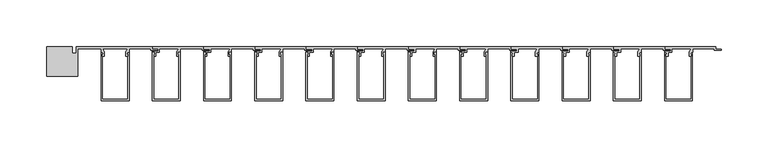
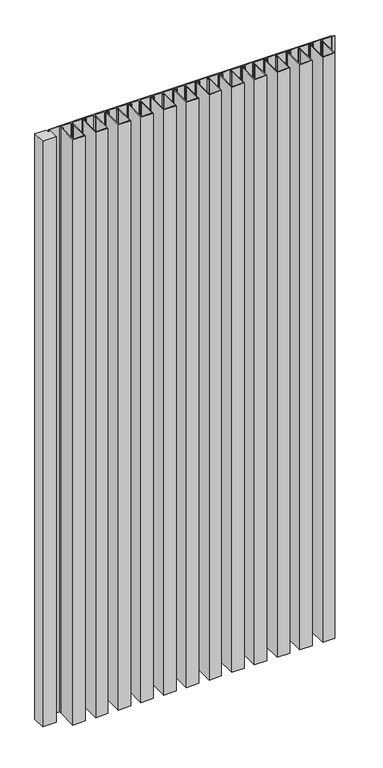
"""IFC4 building model written with IfcOpenShell, lengths in millimetres: proxy geometry, A_GEN_LINE_Small Base_Extended Cap_Corner Angle : A_GEN_LINE_Small Base_Extended Cap_Corner Angle."""

from ifc_helpers import new_model, si_unit, origin, origin_with_axes, place, context, project, spatial, polyline, outline, extrude, source, transform, mapped, element, save


def generic_models_9d76b78a(model_context):
    return source(origin(), model_context, "Body", "SweptSolid", [
        extrude(outline(polyline([(632.0964399, 0.0), (686.6693343, 0.0), (686.6693343, -2.85), (692.6693343, -2.85), (692.6693343, -4.2), (685.1509793, -4.2), (685.1509793, -2.4), (661.6814118, -2.4), (661.6814118, -6.1021884), (660.5664384, -6.1021884), (658.9778726, -8.4994005), (660.2398065, -8.4994005), (660.2398065, -10.4818695), (658.0372804, -10.4818695), (658.0372804, -5.6343123), (660.1364015, -2.4), (639.3159926, -2.4), (639.3159926, -6.1), (635.3255432, -6.1), (635.3255432, -10.4818695), (633.1230171, -10.4818695), (633.1230171, -8.4994005), (634.384951, -8.4994005), (632.7963852, -6.1021884), (631.7101997, -6.1021884), (631.7101997, -4.9), (638.1159926, -4.9), (638.1159926, -2.7), (632.0964399, -2.7), (632.0964399, 0.0)])), origin_with_axes(), (0.0, 0.0, 1.0), 1500.0),
        extrude(outline(polyline([(577.0964399, 0.0), (631.6693343, 0.0), (631.6693343, -2.85), (637.6693343, -2.85), (637.6693343, -4.2), (630.1509793, -4.2), (630.1509793, -2.4), (606.6814118, -2.4), (606.6814118, -6.1021884), (605.5664384, -6.1021884), (603.9778726, -8.4994005), (605.2398065, -8.4994005), (605.2398065, -10.4818695), (603.0372804, -10.4818695), (603.0372804, -5.6343123), (605.1364015, -2.4), (584.3159926, -2.4), (584.3159926, -6.1), (580.3255432, -6.1), (580.3255432, -10.4818695), (578.1230171, -10.4818695), (578.1230171, -8.4994005), (579.384951, -8.4994005), (577.7963852, -6.1021884), (576.7101997, -6.1021884), (576.7101997, -4.9), (583.1159926, -4.9), (583.1159926, -2.7), (577.0964399, -2.7), (577.0964399, 0.0)])), origin_with_axes(), (0.0, 0.0, 1.0), 1500.0),
        extrude(outline(polyline([(522.0964399, 0.0), (576.6693343, 0.0), (576.6693343, -2.85), (582.6693343, -2.85), (582.6693343, -4.2), (575.1509793, -4.2), (575.1509793, -2.4), (551.6814118, -2.4), (551.6814118, -6.1021884), (550.5664384, -6.1021884), (548.9778726, -8.4994005), (550.2398065, -8.4994005), (550.2398065, -10.4818695), (548.0372804, -10.4818695), (548.0372804, -5.6343123), (550.1364015, -2.4), (529.3159926, -2.4), (529.3159926, -6.1), (525.3255432, -6.1), (525.3255432, -10.4818695), (523.1230171, -10.4818695), (523.1230171, -8.4994005), (524.384951, -8.4994005), (522.7963852, -6.1021884), (521.7101997, -6.1021884), (521.7101997, -4.9), (528.1159926, -4.9), (528.1159926, -2.7), (522.0964399, -2.7), (522.0964399, 0.0)])), origin_with_axes(), (0.0, 0.0, 1.0), 1500.0),
        extrude(outline(polyline([(467.0964399, 0.0), (521.6693343, 0.0), (521.6693343, -2.85), (527.6693343, -2.85), (527.6693343, -4.2), (520.1509793, -4.2), (520.1509793, -2.4), (496.6814118, -2.4), (496.6814118, -6.1021884), (495.5664384, -6.1021884), (493.9778726, -8.4994005), (495.2398065, -8.4994005), (495.2398065, -10.4818695), (493.0372804, -10.4818695), (493.0372804, -5.6343123), (495.1364015, -2.4), (474.3159926, -2.4), (474.3159926, -6.1), (470.3255432, -6.1), (470.3255432, -10.4818695), (468.1230171, -10.4818695), (468.1230171, -8.4994005), (469.384951, -8.4994005), (467.7963852, -6.1021884), (466.7101997, -6.1021884), (466.7101997, -4.9), (473.1159926, -4.9), (473.1159926, -2.7), (467.0964399, -2.7), (467.0964399, 0.0)])), origin_with_axes(), (0.0, 0.0, 1.0), 1500.0),
        extrude(outline(polyline([(631.5939572, -58.2007192), (631.5939572, -6.1), (633.7429642, -6.1), (633.7429642, -8.3419727), (632.9939572, -8.5826662), (632.9939572, -56.8007192), (660.1939572, -56.8007192), (660.1939572, -8.5826662), (659.4449503, -8.3419727), (659.4449503, -6.1), (661.5939572, -6.1), (661.5939572, -58.2007192), (631.5939572, -58.2007192)])), origin_with_axes(), (0.0, 0.0, 1.0), 1500.0),
        extrude(outline(polyline([(-4.3962835, 0.0), (-4.3962835, -7.0005407), (0.0, -7.0005407), (0.0, 0.0), (81.7101997, 0.0), (81.7101997, -2.825696), (87.7101997, -2.825696), (87.7101997, -4.175696), (80.1918447, -4.175696), (80.1918447, -2.4), (56.6880373, -2.4), (56.6880373, -6.1021884), (55.5730639, -6.1021884), (53.9844981, -8.4994005), (55.246432, -8.4994005), (55.246432, -10.4818695), (53.0439059, -10.4818695), (53.0771891, -5.5238337), (55.1472669, -2.4), (28.2330476, -2.4), (30.3031254, -5.5238337), (30.3364086, -10.4818695), (28.1338825, -10.4818695), (28.1338825, -8.4994005), (29.3958164, -8.4994005), (27.8072506, -6.1021884), (26.6922772, -6.1021884), (26.6922772, -2.4), (1.4, -2.4), (1.4, -31.9534606), (-31.8427435, -31.9534606), (-31.8427435, 0.0), (-4.3962835, 0.0)])), origin_with_axes(), (0.0, 0.0, 1.0), 1500.0),
        extrude(outline(polyline([(576.6027027, -58.2007192), (576.6027027, -6.1), (578.7517097, -6.1), (578.7517097, -8.3419727), (578.0027027, -8.5826662), (578.0027027, -56.8007192), (605.2027027, -56.8007192), (605.2027027, -8.5826662), (604.4536957, -8.3419727), (604.4536957, -6.1), (606.6027027, -6.1), (606.6027027, -58.2007192), (576.6027027, -58.2007192)])), origin_with_axes(), (0.0, 0.0, 1.0), 1500.0),
        extrude(outline(polyline([(521.6114482, -58.2007192), (521.6114482, -6.1), (523.7604551, -6.1), (523.7604551, -8.3419727), (523.0114482, -8.5826662), (523.0114482, -56.8007192), (550.2114482, -56.8007192), (550.2114482, -8.5826662), (549.4624412, -8.3419727), (549.4624412, -6.1), (551.6114482, -6.1), (551.6114482, -58.2007192), (521.6114482, -58.2007192)])), origin_with_axes(), (0.0, 0.0, 1.0), 1500.0),
        extrude(outline(polyline([(466.6201936, -58.2007192), (466.6201936, -6.1), (468.7692006, -6.1), (468.7692006, -8.3419727), (468.0201936, -8.5826662), (468.0201936, -56.8007192), (495.2201936, -56.8007192), (495.2201936, -8.5826662), (494.4711866, -8.3419727), (494.4711866, -6.1), (496.6201936, -6.1), (496.6201936, -58.2007192), (466.6201936, -58.2007192)])), origin_with_axes(), (0.0, 0.0, 1.0), 1500.0),
        extrude(outline(polyline([(411.6289391, -58.2007192), (411.6289391, -6.1), (413.777946, -6.1), (413.777946, -8.3419727), (413.0289391, -8.5826662), (413.0289391, -56.8007192), (440.2289391, -56.8007192), (440.2289391, -8.5826662), (439.4799321, -8.3419727), (439.4799321, -6.1), (441.6289391, -6.1), (441.6289391, -58.2007192), (411.6289391, -58.2007192)])), origin_with_axes(), (0.0, 0.0, 1.0), 1500.0),
        extrude(outline(polyline([(356.6376845, -58.2007192), (356.6376845, -6.1), (358.7866915, -6.1), (358.7866915, -8.3419727), (358.0376845, -8.5826662), (358.0376845, -56.8007192), (385.2376845, -56.8007192), (385.2376845, -8.5826662), (384.4886776, -8.3419727), (384.4886776, -6.1), (386.6376845, -6.1), (386.6376845, -58.2007192), (356.6376845, -58.2007192)])), origin_with_axes(), (0.0, 0.0, 1.0), 1500.0),
        extrude(outline(polyline([(301.64643, -58.2007192), (301.64643, -6.1), (303.7954369, -6.1), (303.7954369, -8.3419727), (303.04643, -8.5826662), (303.04643, -56.8007192), (330.24643, -56.8007192), (330.24643, -8.5826662), (329.497423, -8.3419727), (329.497423, -6.1), (331.64643, -6.1), (331.64643, -58.2007192), (301.64643, -58.2007192)])), origin_with_axes(), (0.0, 0.0, 1.0), 1500.0),
        extrude(outline(polyline([(246.6551754, -58.2007192), (246.6551754, -6.1), (248.8041824, -6.1), (248.8041824, -8.3419727), (248.0551754, -8.5826662), (248.0551754, -56.8007192), (275.2551754, -56.8007192), (275.2551754, -8.5826662), (274.5061685, -8.3419727), (274.5061685, -6.1), (276.6551754, -6.1), (276.6551754, -58.2007192), (246.6551754, -58.2007192)])), origin_with_axes(), (0.0, 0.0, 1.0), 1500.0),
        extrude(outline(polyline([(191.6639209, -58.2007192), (191.6639209, -6.1), (193.8129278, -6.1), (193.8129278, -8.3419727), (193.0639209, -8.5826662), (193.0639209, -56.8007192), (220.2639209, -56.8007192), (220.2639209, -8.5826662), (219.5149139, -8.3419727), (219.5149139, -6.1), (221.6639209, -6.1), (221.6639209, -58.2007192), (191.6639209, -58.2007192)])), origin_with_axes(), (0.0, 0.0, 1.0), 1500.0),
        extrude(outline(polyline([(136.6726663, -58.2007192), (136.6726663, -6.1), (138.8216733, -6.1), (138.8216733, -8.3419727), (138.0726663, -8.5826662), (138.0726663, -56.8007192), (165.2726663, -56.8007192), (165.2726663, -8.5826662), (164.5236594, -8.3419727), (164.5236594, -6.1), (166.6726663, -6.1), (166.6726663, -58.2007192), (136.6726663, -58.2007192)])), origin_with_axes(), (0.0, 0.0, 1.0), 1500.0),
        extrude(outline(polyline([(81.6814118, -58.2007192), (81.6814118, -6.1), (83.8304188, -6.1), (83.8304188, -8.3419727), (83.0814118, -8.5826662), (83.0814118, -56.8007192), (110.2814118, -56.8007192), (110.2814118, -8.5826662), (109.5324048, -8.3419727), (109.5324048, -6.1), (111.6814118, -6.1), (111.6814118, -58.2007192), (81.6814118, -58.2007192)])), origin_with_axes(), (0.0, 0.0, 1.0), 1500.0),
        extrude(outline(polyline([(26.6901573, -58.2007192), (26.6901573, -6.1), (28.8391642, -6.1), (28.8391642, -8.3419727), (28.0901573, -8.5826662), (28.0901573, -56.8007192), (55.2901573, -56.8007192), (55.2901573, -8.5826662), (54.5411503, -8.3419727), (54.5411503, -6.1), (56.6901573, -6.1), (56.6901573, -58.2007192), (26.6901573, -58.2007192)])), origin_with_axes(), (0.0, 0.0, 1.0), 1500.0),
        extrude(outline(polyline([(412.0964399, 0.0), (466.6693343, 0.0), (466.6693343, -2.85), (472.6693343, -2.85), (472.6693343, -4.2), (465.1509793, -4.2), (465.1509793, -2.4), (441.6814118, -2.4), (441.6814118, -6.1021884), (440.5664384, -6.1021884), (438.9778726, -8.4994005), (440.2398065, -8.4994005), (440.2398065, -10.4818695), (438.0372804, -10.4818695), (438.0372804, -5.6343123), (440.1364015, -2.4), (419.3159926, -2.4), (419.3159926, -6.1), (415.3255432, -6.1), (415.3255432, -10.4818695), (413.1230171, -10.4818695), (413.1230171, -8.4994005), (414.384951, -8.4994005), (412.7963852, -6.1021884), (411.7101997, -6.1021884), (411.7101997, -4.9), (418.1159926, -4.9), (418.1159926, -2.7), (412.0964399, -2.7), (412.0964399, 0.0)])), origin_with_axes(), (0.0, 0.0, 1.0), 1500.0),
        extrude(outline(polyline([(357.0964399, 0.0), (411.6693343, 0.0), (411.6693343, -2.85), (417.6693343, -2.85), (417.6693343, -4.2), (410.1509793, -4.2), (410.1509793, -2.4), (386.6814118, -2.4), (386.6814118, -6.1021884), (385.5664384, -6.1021884), (383.9778726, -8.4994005), (385.2398065, -8.4994005), (385.2398065, -10.4818695), (383.0372804, -10.4818695), (383.0372804, -5.6343123), (385.1364015, -2.4), (364.3159926, -2.4), (364.3159926, -6.1), (360.3255432, -6.1), (360.3255432, -10.4818695), (358.1230171, -10.4818695), (358.1230171, -8.4994005), (359.384951, -8.4994005), (357.7963852, -6.1021884), (356.7101997, -6.1021884), (356.7101997, -4.9), (363.1159926, -4.9), (363.1159926, -2.7), (357.0964399, -2.7), (357.0964399, 0.0)])), origin_with_axes(), (0.0, 0.0, 1.0), 1500.0),
        extrude(outline(polyline([(302.0964399, 0.0), (356.6693343, 0.0), (356.6693343, -2.85), (362.6693343, -2.85), (362.6693343, -4.2), (355.1509793, -4.2), (355.1509793, -2.4), (331.6814118, -2.4), (331.6814118, -6.1021884), (330.5664384, -6.1021884), (328.9778726, -8.4994005), (330.2398065, -8.4994005), (330.2398065, -10.4818695), (328.0372804, -10.4818695), (328.0372804, -5.6343123), (330.1364015, -2.4), (309.3159926, -2.4), (309.3159926, -6.1), (305.3255432, -6.1), (305.3255432, -10.4818695), (303.1230171, -10.4818695), (303.1230171, -8.4994005), (304.384951, -8.4994005), (302.7963852, -6.1021884), (301.7101997, -6.1021884), (301.7101997, -4.9), (308.1159926, -4.9), (308.1159926, -2.7), (302.0964399, -2.7), (302.0964399, 0.0)])), origin_with_axes(), (0.0, 0.0, 1.0), 1500.0),
        extrude(outline(polyline([(247.0964399, 0.0), (301.6693343, 0.0), (301.6693343, -2.85), (307.6693343, -2.85), (307.6693343, -4.2), (300.1509793, -4.2), (300.1509793, -2.4), (276.6814118, -2.4), (276.6814118, -6.1021884), (275.5664384, -6.1021884), (273.9778726, -8.4994005), (275.2398065, -8.4994005), (275.2398065, -10.4818695), (273.0372804, -10.4818695), (273.0372804, -5.6343123), (275.1364015, -2.4), (254.3159926, -2.4), (254.3159926, -6.1), (250.3255432, -6.1), (250.3255432, -10.4818695), (248.1230171, -10.4818695), (248.1230171, -8.4994005), (249.384951, -8.4994005), (247.7963852, -6.1021884), (246.7101997, -6.1021884), (246.7101997, -4.9), (253.1159926, -4.9), (253.1159926, -2.7), (247.0964399, -2.7), (247.0964399, 0.0)])), origin_with_axes(), (0.0, 0.0, 1.0), 1500.0),
        extrude(outline(polyline([(192.0964399, 0.0), (246.6693343, 0.0), (246.6693343, -2.85), (252.6693343, -2.85), (252.6693343, -4.2), (245.1509793, -4.2), (245.1509793, -2.4), (221.6814118, -2.4), (221.6814118, -6.1021884), (220.5664384, -6.1021884), (218.9778726, -8.4994005), (220.2398065, -8.4994005), (220.2398065, -10.4818695), (218.0372804, -10.4818695), (218.0372804, -5.6343123), (220.1364015, -2.4), (199.3159926, -2.4), (199.3159926, -6.1), (195.3255432, -6.1), (195.3255432, -10.4818695), (193.1230171, -10.4818695), (193.1230171, -8.4994005), (194.384951, -8.4994005), (192.7963852, -6.1021884), (191.7101997, -6.1021884), (191.7101997, -4.9), (198.1159926, -4.9), (198.1159926, -2.7), (192.0964399, -2.7), (192.0964399, 0.0)])), origin_with_axes(), (0.0, 0.0, 1.0), 1500.0),
        extrude(outline(polyline([(137.0964399, 0.0), (191.6693343, 0.0), (191.6693343, -2.85), (197.6693343, -2.85), (197.6693343, -4.2), (190.1509793, -4.2), (190.1509793, -2.4), (166.6814118, -2.4), (166.6814118, -6.1021884), (165.5664384, -6.1021884), (163.9778726, -8.4994005), (165.2398065, -8.4994005), (165.2398065, -10.4818695), (163.0372804, -10.4818695), (163.0372804, -5.6343123), (165.1364015, -2.4), (144.3159926, -2.4), (144.3159926, -6.1), (140.3255432, -6.1), (140.3255432, -10.4818695), (138.1230171, -10.4818695), (138.1230171, -8.4994005), (139.384951, -8.4994005), (137.7963852, -6.1021884), (136.7101997, -6.1021884), (136.7101997, -4.9), (143.1159926, -4.9), (143.1159926, -2.7), (137.0964399, -2.7), (137.0964399, 0.0)])), origin_with_axes(), (0.0, 0.0, 1.0), 1500.0),
        extrude(outline(polyline([(82.0964399, 0.0), (136.6693343, 0.0), (136.6693343, -2.85), (142.6693343, -2.85), (142.6693343, -4.2), (135.1509793, -4.2), (135.1509793, -2.4), (111.6814118, -2.4), (111.6814118, -6.1021884), (110.5664384, -6.1021884), (108.9778726, -8.4994005), (110.2398065, -8.4994005), (110.2398065, -10.4818695), (108.0372804, -10.4818695), (108.0372804, -5.6343123), (110.1364015, -2.4), (89.3159926, -2.4), (89.3159926, -6.1), (85.3255432, -6.1), (85.3255432, -10.4818695), (83.1230171, -10.4818695), (83.1230171, -8.4994005), (84.384951, -8.4994005), (82.7963852, -6.1021884), (81.7101997, -6.1021884), (81.7101997, -4.9), (88.1159926, -4.9), (88.1159926, -2.7), (82.0964399, -2.7), (82.0964399, 0.0)])), origin_with_axes(), (0.0, 0.0, 1.0), 1500.0),
    ])


if __name__ == "__main__":
    model = new_model("IFC4")
    model_context = context("Model", 3, world=origin())
    ifc_project = project(units=[si_unit("LENGTHUNIT", "METRE", prefix="MILLI")], contexts=[model_context])
    site = spatial("IfcSite", under=ifc_project)
    building = spatial("IfcBuilding", under=site)
    placement = place(None, origin())
    generic_models_shape = generic_models_9d76b78a(model_context)
    element("IfcBuildingElementProxy", 1, Name="A_GEN_LINE_Small Base_Extended Cap_Corner Angle : A_GEN_LINE_Small Base_Extended Cap_Corner Angle", ObjectType="A_GEN_LINE_Small Base_Extended Cap_Corner Angle : A_GEN_LINE_Small Base_Extended Cap_Corner Angle", at=placement, inside=building, context=model_context, shape_type="MappedRepresentation", body=[
        mapped(generic_models_shape, transform((0.0, 0.0, 0.0), x_axis=(1.0, 0.0, 0.0), y_axis=(0.0, 1.0, 0.0), z_axis=(0.0, 0.0, 1.0))),
    ])
    save(model, "model.ifc")
